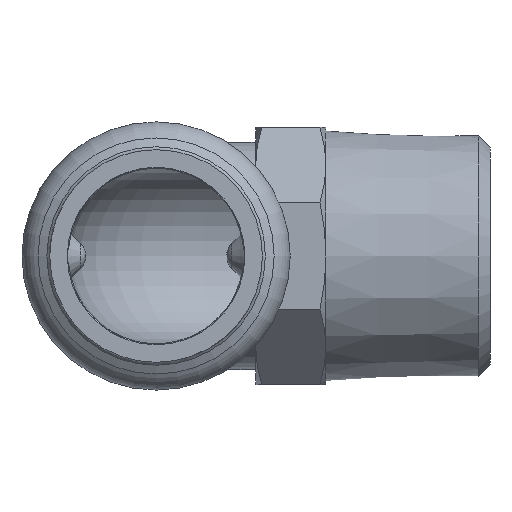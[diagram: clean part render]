
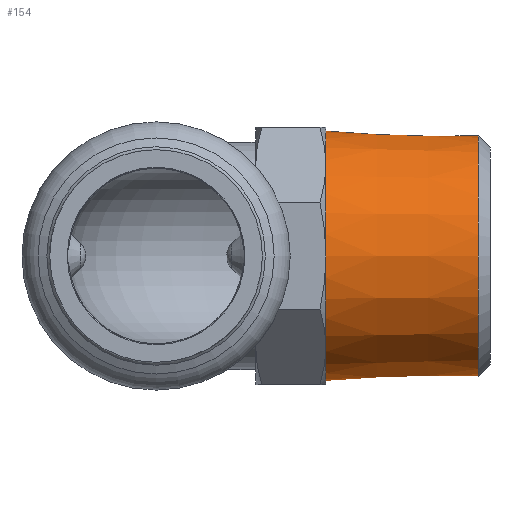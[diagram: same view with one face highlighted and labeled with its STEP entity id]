
A CAD part, left-side view. The second image highlights one B-rep face of the part: STEP entity #154.
In plain terms, the highlighted conical face has half-angle 1.79 degrees and reference radius 10.44 mm.
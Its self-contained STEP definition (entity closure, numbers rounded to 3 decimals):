
#112=CARTESIAN_POINT('',(10.252,-27.5,0.));
#113=VERTEX_POINT('',#112);
#114=CARTESIAN_POINT('',(0.,-27.5,0.));
#115=DIRECTION('',(0.0,-1.0,0.0));
#116=DIRECTION('',(-1.0,0.0,0.0));
#117=AXIS2_PLACEMENT_3D('',#114,#115,#116);
#118=CIRCLE('',#117,10.252);
#119=EDGE_CURVE('',#113,#113,#118,.T.);
#135=CARTESIAN_POINT('',(0.,-21.5,0.0));
#136=DIRECTION('',(0.,1.0,0.0));
#137=DIRECTION('',(1.0,0.0,0.0));
#138=AXIS2_PLACEMENT_3D('',#135,#136,#137);
#139=CONICAL_SURFACE('',#138,10.44,1.79);
#140=CARTESIAN_POINT('',(10.659,-14.5,0.0));
#141=VERTEX_POINT('',#140);
#142=CARTESIAN_POINT('',(0.,-14.5,0.0));
#143=DIRECTION('',(0.0,-1.0,0.0));
#144=DIRECTION('',(1.0,0.0,0.0));
#145=AXIS2_PLACEMENT_3D('',#142,#143,#144);
#146=CIRCLE('',#145,10.659);
#147=EDGE_CURVE('',#141,#141,#146,.T.);
#148=ORIENTED_EDGE('',*,*,#147,.T.);
#149=EDGE_LOOP('',(#148));
#150=FACE_OUTER_BOUND('',#149,.T.);
#151=ORIENTED_EDGE('',*,*,#119,.F.);
#152=EDGE_LOOP('',(#151));
#153=FACE_BOUND('',#152,.T.);
#154=ADVANCED_FACE('',(#150,#153),#139,.T.);
